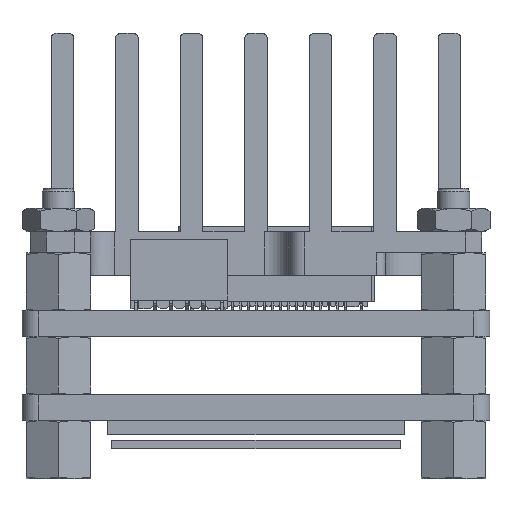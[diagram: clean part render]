
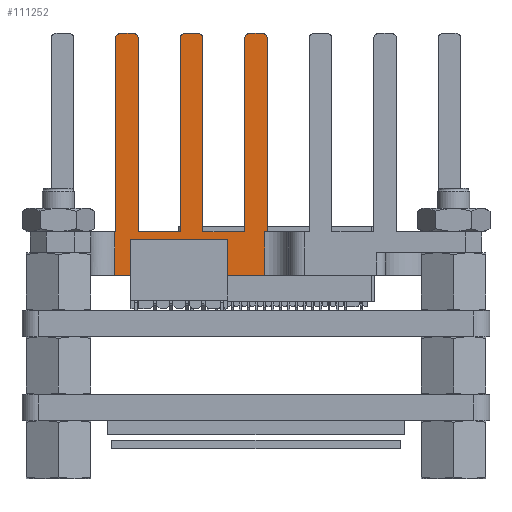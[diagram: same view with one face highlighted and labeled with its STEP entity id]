
A CAD part, front view. The second image highlights one B-rep face of the part: STEP entity #111252.
In plain terms, the highlighted planar face has unit normal (0, -1, 0).
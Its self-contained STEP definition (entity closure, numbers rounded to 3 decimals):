
#106320=DIRECTION('',(-1.,0.,0.));
#106321=VECTOR('',#106320,0.164);
#106322=CARTESIAN_POINT('',(0.7,-7.816,18.7));
#106323=LINE('',#106322,#106321);
#106324=DIRECTION('',(1.,0.,0.));
#106325=VECTOR('',#106324,2.6);
#106326=CARTESIAN_POINT('',(-3.3,-7.816,18.7));
#106327=LINE('',#106326,#106325);
#106328=DIRECTION('',(1.,0.,0.));
#106329=VECTOR('',#106328,2.6);
#106330=CARTESIAN_POINT('',(-7.3,-7.816,18.7));
#106331=LINE('',#106330,#106329);
#106332=DIRECTION('',(1.,0.,0.));
#106333=VECTOR('',#106332,0.05);
#106334=CARTESIAN_POINT('',(-8.75,-7.816,18.7));
#106335=LINE('',#106334,#106333);
#107456=DIRECTION('',(0.,0.,1.));
#107457=VECTOR('',#107456,2.7);
#107458=CARTESIAN_POINT('',(-8.75,-7.816,16.));
#107459=LINE('',#107458,#107457);
#107460=DIRECTION('',(-1.,0.,0.));
#107461=VECTOR('',#107460,9.286);
#107462=CARTESIAN_POINT('',(0.536,-7.816,16.));
#107463=LINE('',#107462,#107461);
#107464=CARTESIAN_POINT('',(-8.4,-7.816,30.7));
#107465=DIRECTION('',(0.,1.,0.));
#107466=DIRECTION('',(-1.,0.,0.));
#107467=AXIS2_PLACEMENT_3D('',#107464,#107465,#107466);
#107469=CARTESIAN_POINT('',(-7.6,-7.816,30.7));
#107470=DIRECTION('',(0.,1.,0.));
#107471=DIRECTION('',(0.,0.,1.));
#107472=AXIS2_PLACEMENT_3D('',#107469,#107470,#107471);
#107474=CARTESIAN_POINT('',(-4.4,-7.816,30.7));
#107475=DIRECTION('',(0.,1.,0.));
#107476=DIRECTION('',(-1.,0.,0.));
#107477=AXIS2_PLACEMENT_3D('',#107474,#107475,#107476);
#107479=CARTESIAN_POINT('',(-3.6,-7.816,30.7));
#107480=DIRECTION('',(0.,1.,0.));
#107481=DIRECTION('',(0.,0.,1.));
#107482=AXIS2_PLACEMENT_3D('',#107479,#107480,#107481);
#107484=CARTESIAN_POINT('',(-0.4,-7.816,30.7));
#107485=DIRECTION('',(0.,1.,0.));
#107486=DIRECTION('',(-1.,0.,0.));
#107487=AXIS2_PLACEMENT_3D('',#107484,#107485,#107486);
#107489=CARTESIAN_POINT('',(0.4,-7.816,30.7));
#107490=DIRECTION('',(0.,1.,0.));
#107491=DIRECTION('',(0.,0.,1.));
#107492=AXIS2_PLACEMENT_3D('',#107489,#107490,#107491);
#107494=DIRECTION('',(0.,0.,-1.));
#107495=VECTOR('',#107494,2.7);
#107496=CARTESIAN_POINT('',(0.536,-7.816,18.7));
#107497=LINE('',#107496,#107495);
#107506=DIRECTION('',(0.,0.,1.));
#107507=VECTOR('',#107506,12.);
#107508=CARTESIAN_POINT('',(-8.7,-7.816,18.7));
#107509=LINE('',#107508,#107507);
#107540=DIRECTION('',(0.,0.,-1.));
#107541=VECTOR('',#107540,12.);
#107542=CARTESIAN_POINT('',(-7.3,-7.816,30.7));
#107543=LINE('',#107542,#107541);
#107556=DIRECTION('',(1.,0.,0.));
#107557=VECTOR('',#107556,0.8);
#107558=CARTESIAN_POINT('',(-8.4,-7.816,31.));
#107559=LINE('',#107558,#107557);
#107568=DIRECTION('',(0.,0.,1.));
#107569=VECTOR('',#107568,12.);
#107570=CARTESIAN_POINT('',(-4.7,-7.816,18.7));
#107571=LINE('',#107570,#107569);
#107602=DIRECTION('',(0.,0.,-1.));
#107603=VECTOR('',#107602,12.);
#107604=CARTESIAN_POINT('',(-3.3,-7.816,30.7));
#107605=LINE('',#107604,#107603);
#107618=DIRECTION('',(1.,0.,0.));
#107619=VECTOR('',#107618,0.8);
#107620=CARTESIAN_POINT('',(-4.4,-7.816,31.));
#107621=LINE('',#107620,#107619);
#107630=DIRECTION('',(0.,0.,1.));
#107631=VECTOR('',#107630,12.);
#107632=CARTESIAN_POINT('',(-0.7,-7.816,18.7));
#107633=LINE('',#107632,#107631);
#107664=DIRECTION('',(0.,0.,-1.));
#107665=VECTOR('',#107664,12.);
#107666=CARTESIAN_POINT('',(0.7,-7.816,30.7));
#107667=LINE('',#107666,#107665);
#107680=DIRECTION('',(1.,0.,0.));
#107681=VECTOR('',#107680,0.8);
#107682=CARTESIAN_POINT('',(-0.4,-7.816,31.));
#107683=LINE('',#107682,#107681);
#108804=CARTESIAN_POINT('',(0.536,-7.816,16.));
#108805=VERTEX_POINT('',#108804);
#108806=CARTESIAN_POINT('',(-8.75,-7.816,16.));
#108807=VERTEX_POINT('',#108806);
#108976=CARTESIAN_POINT('',(0.536,-7.816,18.7));
#108977=VERTEX_POINT('',#108976);
#108978=CARTESIAN_POINT('',(0.7,-7.816,18.7));
#108979=VERTEX_POINT('',#108978);
#108980=CARTESIAN_POINT('',(0.7,-7.816,30.7));
#108981=VERTEX_POINT('',#108980);
#108982=CARTESIAN_POINT('',(0.4,-7.816,31.));
#108983=VERTEX_POINT('',#108982);
#108984=CARTESIAN_POINT('',(-0.4,-7.816,31.));
#108985=VERTEX_POINT('',#108984);
#108986=CARTESIAN_POINT('',(-0.7,-7.816,30.7));
#108987=VERTEX_POINT('',#108986);
#108988=CARTESIAN_POINT('',(-0.7,-7.816,18.7));
#108989=VERTEX_POINT('',#108988);
#108990=CARTESIAN_POINT('',(-3.3,-7.816,18.7));
#108991=VERTEX_POINT('',#108990);
#108992=CARTESIAN_POINT('',(-3.3,-7.816,30.7));
#108993=VERTEX_POINT('',#108992);
#108994=CARTESIAN_POINT('',(-3.6,-7.816,31.));
#108995=VERTEX_POINT('',#108994);
#108996=CARTESIAN_POINT('',(-4.4,-7.816,31.));
#108997=VERTEX_POINT('',#108996);
#108998=CARTESIAN_POINT('',(-4.7,-7.816,30.7));
#108999=VERTEX_POINT('',#108998);
#109000=CARTESIAN_POINT('',(-4.7,-7.816,18.7));
#109001=VERTEX_POINT('',#109000);
#109002=CARTESIAN_POINT('',(-7.3,-7.816,18.7));
#109003=VERTEX_POINT('',#109002);
#109004=CARTESIAN_POINT('',(-7.3,-7.816,30.7));
#109005=VERTEX_POINT('',#109004);
#109006=CARTESIAN_POINT('',(-7.6,-7.816,31.));
#109007=VERTEX_POINT('',#109006);
#109008=CARTESIAN_POINT('',(-8.4,-7.816,31.));
#109009=VERTEX_POINT('',#109008);
#109010=CARTESIAN_POINT('',(-8.7,-7.816,30.7));
#109011=VERTEX_POINT('',#109010);
#109012=CARTESIAN_POINT('',(-8.7,-7.816,18.7));
#109013=VERTEX_POINT('',#109012);
#109014=CARTESIAN_POINT('',(-8.75,-7.816,18.7));
#109015=VERTEX_POINT('',#109014);
#111207=CARTESIAN_POINT('',(-4.025,-7.816,23.5));
#111208=DIRECTION('',(0.,1.,0.));
#111209=DIRECTION('',(-1.,0.,0.));
#111210=AXIS2_PLACEMENT_3D('',#111207,#111208,#111209);
#111211=PLANE('',#111210);
#111213=ORIENTED_EDGE('',*,*,#111212,.T.);
#111214=ORIENTED_EDGE('',*,*,#109857,.T.);
#111215=ORIENTED_EDGE('',*,*,#111201,.T.);
#111216=ORIENTED_EDGE('',*,*,#109575,.T.);
#111218=ORIENTED_EDGE('',*,*,#111217,.T.);
#111220=ORIENTED_EDGE('',*,*,#111219,.T.);
#111222=ORIENTED_EDGE('',*,*,#111221,.T.);
#111224=ORIENTED_EDGE('',*,*,#111223,.T.);
#111226=ORIENTED_EDGE('',*,*,#111225,.T.);
#111227=ORIENTED_EDGE('',*,*,#109567,.T.);
#111229=ORIENTED_EDGE('',*,*,#111228,.T.);
#111231=ORIENTED_EDGE('',*,*,#111230,.T.);
#111233=ORIENTED_EDGE('',*,*,#111232,.T.);
#111235=ORIENTED_EDGE('',*,*,#111234,.T.);
#111237=ORIENTED_EDGE('',*,*,#111236,.T.);
#111238=ORIENTED_EDGE('',*,*,#109559,.T.);
#111240=ORIENTED_EDGE('',*,*,#111239,.T.);
#111242=ORIENTED_EDGE('',*,*,#111241,.T.);
#111244=ORIENTED_EDGE('',*,*,#111243,.T.);
#111246=ORIENTED_EDGE('',*,*,#111245,.T.);
#111248=ORIENTED_EDGE('',*,*,#111247,.T.);
#111249=ORIENTED_EDGE('',*,*,#109551,.T.);
#111250=EDGE_LOOP('',(#111213,#111214,#111215,#111216,#111218,#111220,#111222,
#111224,#111226,#111227,#111229,#111231,#111233,#111235,#111237,#111238,#111240,
#111242,#111244,#111246,#111248,#111249));
#111251=FACE_OUTER_BOUND('',#111250,.F.);
#111252=ADVANCED_FACE('',(#111251),#111211,.F.);
#107468=CIRCLE('',#107467,0.3);
#107473=CIRCLE('',#107472,0.3);
#107478=CIRCLE('',#107477,0.3);
#107483=CIRCLE('',#107482,0.3);
#107488=CIRCLE('',#107487,0.3);
#107493=CIRCLE('',#107492,0.3);
#109551=EDGE_CURVE('',#108979,#108977,#106323,.T.);
#109559=EDGE_CURVE('',#108991,#108989,#106327,.T.);
#109567=EDGE_CURVE('',#109003,#109001,#106331,.T.);
#109575=EDGE_CURVE('',#109015,#109013,#106335,.T.);
#109857=EDGE_CURVE('',#108805,#108807,#107463,.T.);
#111201=EDGE_CURVE('',#108807,#109015,#107459,.T.);
#111212=EDGE_CURVE('',#108977,#108805,#107497,.T.);
#111217=EDGE_CURVE('',#109013,#109011,#107509,.T.);
#111219=EDGE_CURVE('',#109011,#109009,#107468,.T.);
#111221=EDGE_CURVE('',#109009,#109007,#107559,.T.);
#111223=EDGE_CURVE('',#109007,#109005,#107473,.T.);
#111225=EDGE_CURVE('',#109005,#109003,#107543,.T.);
#111228=EDGE_CURVE('',#109001,#108999,#107571,.T.);
#111230=EDGE_CURVE('',#108999,#108997,#107478,.T.);
#111232=EDGE_CURVE('',#108997,#108995,#107621,.T.);
#111234=EDGE_CURVE('',#108995,#108993,#107483,.T.);
#111236=EDGE_CURVE('',#108993,#108991,#107605,.T.);
#111239=EDGE_CURVE('',#108989,#108987,#107633,.T.);
#111241=EDGE_CURVE('',#108987,#108985,#107488,.T.);
#111243=EDGE_CURVE('',#108985,#108983,#107683,.T.);
#111245=EDGE_CURVE('',#108983,#108981,#107493,.T.);
#111247=EDGE_CURVE('',#108981,#108979,#107667,.T.);
